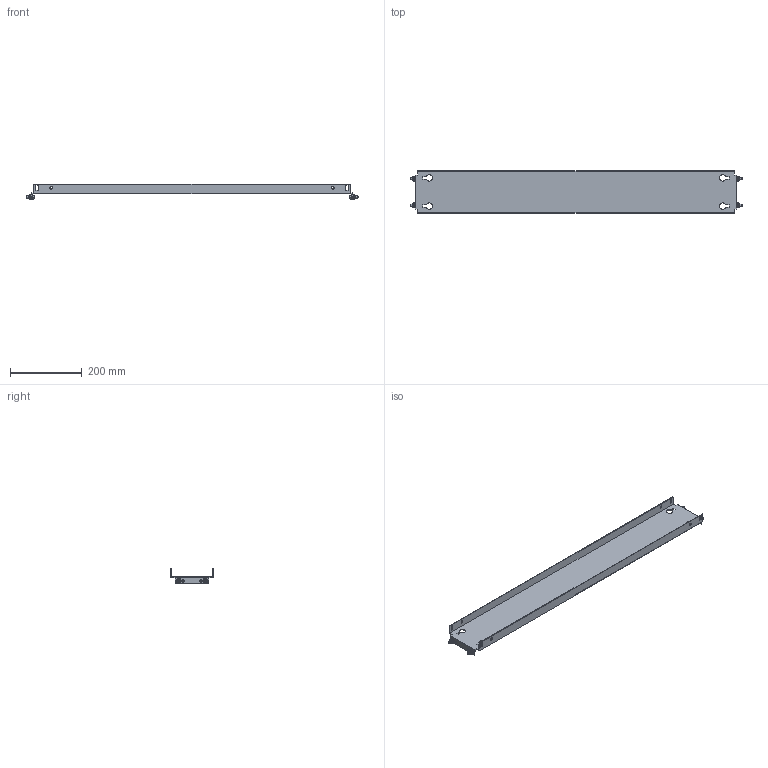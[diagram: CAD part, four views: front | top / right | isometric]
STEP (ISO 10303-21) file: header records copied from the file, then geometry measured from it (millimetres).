
FILE_DESCRIPTION(('Open CASCADE Model'),'2;1');
FILE_NAME('Open CASCADE Shape Model','2025-02-20T13:24:39',('Author'),( 'Open CASCADE'),'Open CASCADE STEP processor 7.8','Open CASCADE 7.8' ,'Unknown');
FILE_SCHEMA(('AUTOMOTIVE_DESIGN { 1 0 10303 214 1 1 1 1 }'));
Length unit declared in the file: millimetre
Products named in the file (4): Compound1; Solid1; Solid2; Solid3
Assembly tree (9 placements, depth 2):
  Compound1
    Solid1
    Solid2  x4
    Solid3  x4
Bounding box: 928 x 119 x 43 mm (x, y, z)
Volume: 306903.7 mm3; surface area: 311805.8 mm2
Topology: 9 solids, 9 shells, 306 faces, 746 edges, 462 vertices
Faces by surface type: plane 150, cone 68, bspline 48, cylinder 28, torus 12
Full cylindrical faces by diameter (mm): 5 x4, 6 x8, 7 x12
Entity records: 4844 total; most frequent: CARTESIAN_POINT 1361, ORIENTED_EDGE 742, DIRECTION 628, EDGE_CURVE 371, VERTEX_POINT 240, LINE 216, VECTOR 216, AXIS2_PLACEMENT_3D 206
